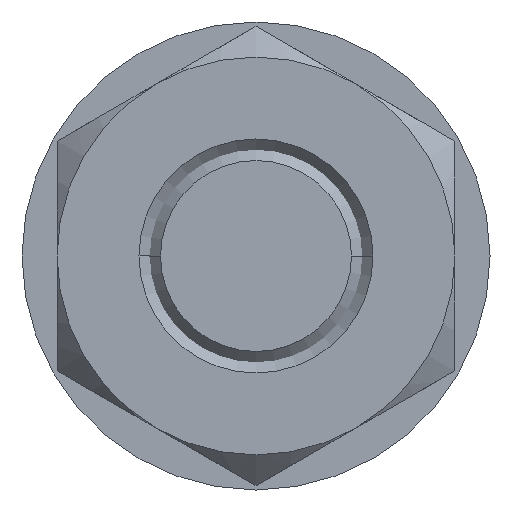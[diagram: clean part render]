
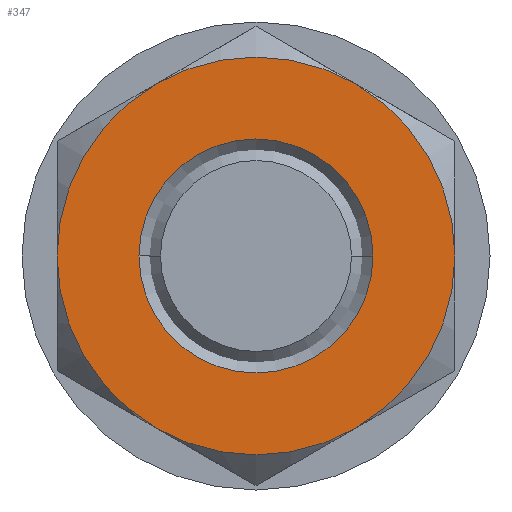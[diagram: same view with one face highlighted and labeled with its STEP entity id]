
A CAD part, front view. The second image highlights one B-rep face of the part: STEP entity #347.
In plain terms, the highlighted planar face has unit normal (0, -1, 0).
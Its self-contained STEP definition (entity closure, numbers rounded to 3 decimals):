
#347 = ADVANCED_FACE( '', ( #518, #519 ), #520, .T. );
#518 = FACE_BOUND( '', #692, .T. );
#519 = FACE_OUTER_BOUND( '', #693, .T. );
#520 = PLANE( '', #694 );
#692 = EDGE_LOOP( '', ( #1276, #1277 ) );
#693 = EDGE_LOOP( '', ( #1278, #1279, #1280, #1281, #1282, #1283 ) );
#694 = AXIS2_PLACEMENT_3D( '', #1284, #1285, #1286 );
#1276 = ORIENTED_EDGE( '', *, *, #1428, .T. );
#1277 = ORIENTED_EDGE( '', *, *, #1471, .T. );
#1278 = ORIENTED_EDGE( '', *, *, #1459, .F. );
#1279 = ORIENTED_EDGE( '', *, *, #1460, .F. );
#1280 = ORIENTED_EDGE( '', *, *, #1461, .F. );
#1281 = ORIENTED_EDGE( '', *, *, #1462, .F. );
#1282 = ORIENTED_EDGE( '', *, *, #1463, .F. );
#1283 = ORIENTED_EDGE( '', *, *, #1464, .F. );
#1284 = CARTESIAN_POINT( '', ( 4.25, -45., 0. ) );
#1285 = DIRECTION( '', ( 0., -1., 0. ) );
#1286 = DIRECTION( '', ( -1., 0., 0. ) );
#1428 = EDGE_CURVE( '', #1684, #1686, #1688, .T. );
#1459 = EDGE_CURVE( '', #1728, #1719, #1743, .T. );
#1460 = EDGE_CURVE( '', #1737, #1728, #1744, .T. );
#1461 = EDGE_CURVE( '', #1690, #1737, #1745, .T. );
#1462 = EDGE_CURVE( '', #1713, #1690, #1746, .T. );
#1463 = EDGE_CURVE( '', #1702, #1713, #1747, .T. );
#1464 = EDGE_CURVE( '', #1719, #1702, #1748, .T. );
#1471 = EDGE_CURVE( '', #1686, #1684, #1755, .T. );
#1684 = VERTEX_POINT( '', #2232 );
#1686 = VERTEX_POINT( '', #2235 );
#1688 = CIRCLE( '', #2238, 5. );
#1690 = VERTEX_POINT( '', #2240 );
#1702 = VERTEX_POINT( '', #2290 );
#1713 = VERTEX_POINT( '', #2339 );
#1719 = VERTEX_POINT( '', #2381 );
#1728 = VERTEX_POINT( '', #2427 );
#1737 = VERTEX_POINT( '', #2473 );
#1743 = CIRCLE( '', #2515, 8.5 );
#1744 = CIRCLE( '', #2516, 8.5 );
#1745 = CIRCLE( '', #2517, 8.5 );
#1746 = CIRCLE( '', #2518, 8.5 );
#1747 = CIRCLE( '', #2519, 8.5 );
#1748 = CIRCLE( '', #2520, 8.5 );
#1755 = CIRCLE( '', #2527, 5. );
#2232 = CARTESIAN_POINT( '', ( 5., -45., 0. ) );
#2235 = CARTESIAN_POINT( '', ( -5., -45., 0. ) );
#2238 = AXIS2_PLACEMENT_3D( '', #2749, #2750, #2751 );
#2240 = CARTESIAN_POINT( '', ( -4.25, -45., 7.361 ) );
#2290 = CARTESIAN_POINT( '', ( -4.25, -45., -7.361 ) );
#2339 = CARTESIAN_POINT( '', ( -8.5, -45., 0. ) );
#2381 = CARTESIAN_POINT( '', ( 4.25, -45., -7.361 ) );
#2427 = CARTESIAN_POINT( '', ( 8.5, -45., 0. ) );
#2473 = CARTESIAN_POINT( '', ( 4.25, -45., 7.361 ) );
#2515 = AXIS2_PLACEMENT_3D( '', #2758, #2759, #2760 );
#2516 = AXIS2_PLACEMENT_3D( '', #2761, #2762, #2763 );
#2517 = AXIS2_PLACEMENT_3D( '', #2764, #2765, #2766 );
#2518 = AXIS2_PLACEMENT_3D( '', #2767, #2768, #2769 );
#2519 = AXIS2_PLACEMENT_3D( '', #2770, #2771, #2772 );
#2520 = AXIS2_PLACEMENT_3D( '', #2773, #2774, #2775 );
#2527 = AXIS2_PLACEMENT_3D( '', #2794, #2795, #2796 );
#2749 = CARTESIAN_POINT( '', ( 0., -45., 0. ) );
#2750 = DIRECTION( '', ( 0., 1., 0. ) );
#2751 = DIRECTION( '', ( 1., 0., 0. ) );
#2758 = CARTESIAN_POINT( '', ( 0., -45., 0. ) );
#2759 = DIRECTION( '', ( 0., 1., 0. ) );
#2760 = DIRECTION( '', ( 1., 0., 0. ) );
#2761 = CARTESIAN_POINT( '', ( 0., -45., 0. ) );
#2762 = DIRECTION( '', ( 0., 1., 0. ) );
#2763 = DIRECTION( '', ( 1., 0., 0. ) );
#2764 = CARTESIAN_POINT( '', ( 0., -45., 0. ) );
#2765 = DIRECTION( '', ( 0., 1., 0. ) );
#2766 = DIRECTION( '', ( 1., 0., 0. ) );
#2767 = CARTESIAN_POINT( '', ( 0., -45., 0. ) );
#2768 = DIRECTION( '', ( 0., 1., 0. ) );
#2769 = DIRECTION( '', ( 1., 0., 0. ) );
#2770 = CARTESIAN_POINT( '', ( 0., -45., 0. ) );
#2771 = DIRECTION( '', ( 0., 1., 0. ) );
#2772 = DIRECTION( '', ( 1., 0., 0. ) );
#2773 = CARTESIAN_POINT( '', ( 0., -45., 0. ) );
#2774 = DIRECTION( '', ( 0., 1., 0. ) );
#2775 = DIRECTION( '', ( 1., 0., 0. ) );
#2794 = CARTESIAN_POINT( '', ( 0., -45., 0. ) );
#2795 = DIRECTION( '', ( 0., 1., 0. ) );
#2796 = DIRECTION( '', ( 1., 0., 0. ) );
